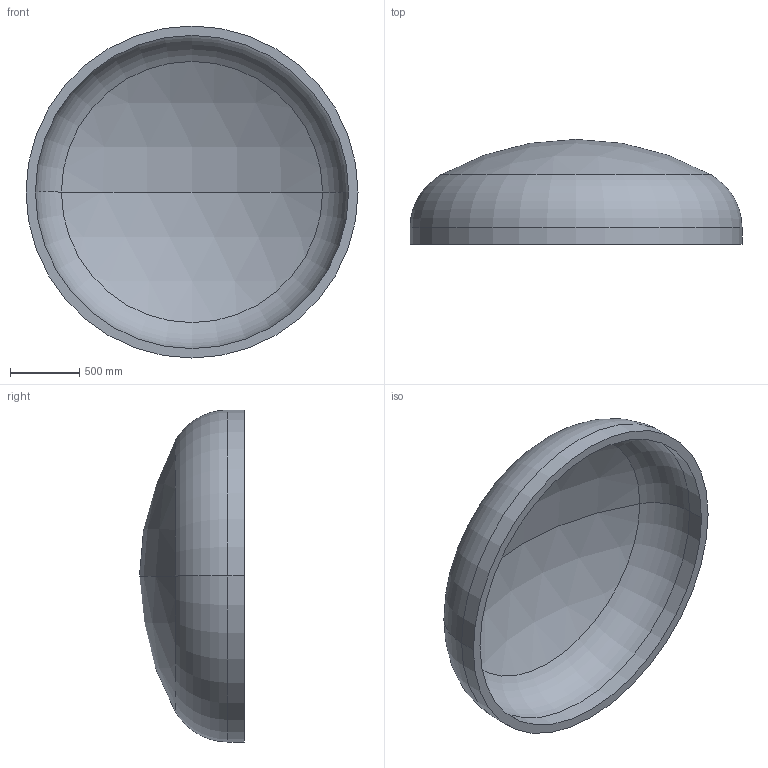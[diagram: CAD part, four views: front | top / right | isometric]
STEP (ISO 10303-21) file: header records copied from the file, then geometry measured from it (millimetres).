
FILE_DESCRIPTION (( 'STEP AP203' ), '1' );
FILE_NAME ('DIN 28013 Korbbogenform_-_Boden DIN 28013 - 2400 x 120 - I - s=68.step', '2016-07-01T15:31:58', ( '' ), ( '' ), 'SwSTEP 2.0', 'SolidWorks 2013', '' );
FILE_SCHEMA (( 'CONFIG_CONTROL_DESIGN' ));
Length unit declared in the file: millimetre
Products named in the file (1): DIN 28013 Korbbogenform_-_Boden DIN 28013 - 2400 x 120 - I - s=68
Bounding box: 2400 x 758.24 x 2400 mm (x, y, z)
Volume: 470424124.1 mm3; surface area: 14343865 mm2
Topology: 1 solids, 1 shells, 13 faces, 24 edges, 14 vertices
Faces by surface type: torus 4, cylinder 4, sphere 4, plane 1
Entity records: 407 total; most frequent: DIRECTION 72, CARTESIAN_POINT 52, ORIENTED_EDGE 48, AXIS2_PLACEMENT_3D 34, EDGE_CURVE 24, CIRCLE 20, VERTEX_POINT 14, EDGE_LOOP 14
